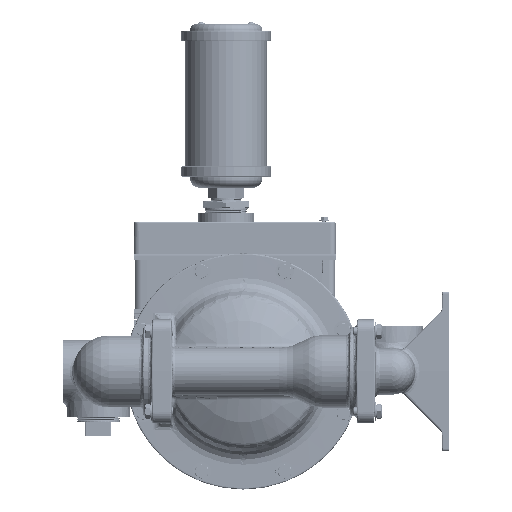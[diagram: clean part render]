
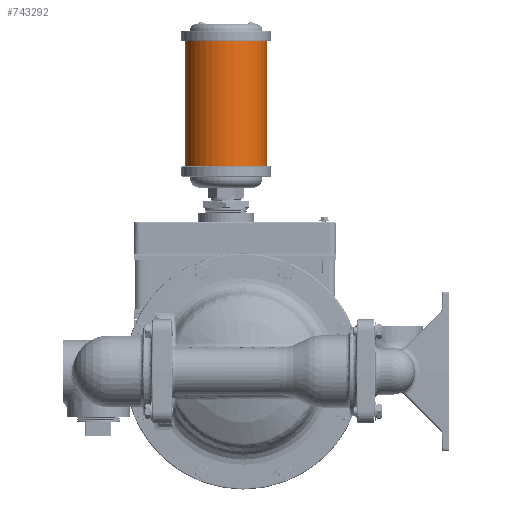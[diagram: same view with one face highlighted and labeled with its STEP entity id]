
A CAD part, left-side view. The second image highlights one B-rep face of the part: STEP entity #743292.
In plain terms, the highlighted cylindrical face has radius 45.339 mm (diameter 90.678 mm), a partial arc.
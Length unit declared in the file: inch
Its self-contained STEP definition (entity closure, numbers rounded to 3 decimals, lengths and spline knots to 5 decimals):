
#175208=DIRECTION('',(0.,0.,1.));
#175209=VECTOR('',#175208,5.5);
#175210=CARTESIAN_POINT('',(0.,2.535,8.983));
#175211=LINE('',#175210,#175209);
#175212=DIRECTION('',(0.,0.,1.));
#175213=VECTOR('',#175212,5.5);
#175214=CARTESIAN_POINT('',(0.,-1.035,8.983));
#175215=LINE('',#175214,#175213);
#175216=CARTESIAN_POINT('',(0.,0.75,8.983));
#175217=DIRECTION('',(0.,0.,1.));
#175218=DIRECTION('',(0.,1.,0.));
#175219=AXIS2_PLACEMENT_3D('',#175216,#175217,#175218);
#175241=CARTESIAN_POINT('',(0.,0.75,14.483));
#175242=DIRECTION('',(0.,0.,1.));
#175243=DIRECTION('',(0.,1.,0.));
#175244=AXIS2_PLACEMENT_3D('',#175241,#175242,#175243);
#603593=CARTESIAN_POINT('',(0.,2.535,8.983));
#603594=CARTESIAN_POINT('',(0.,2.535,14.483));
#603595=VERTEX_POINT('',#603593);
#603596=VERTEX_POINT('',#603594);
#603597=CARTESIAN_POINT('',(0.,-1.035,8.983));
#603598=CARTESIAN_POINT('',(0.,-1.035,14.483));
#603599=VERTEX_POINT('',#603597);
#603600=VERTEX_POINT('',#603598);
#743278=CARTESIAN_POINT('',(0.,0.75,15.592));
#743279=DIRECTION('',(0.,0.,-1.));
#743280=DIRECTION('',(0.,-1.,0.));
#743281=AXIS2_PLACEMENT_3D('',#743278,#743279,#743280);
#743282=CYLINDRICAL_SURFACE('',#743281,1.785);
#743284=ORIENTED_EDGE('',*,*,#743283,.T.);
#743286=ORIENTED_EDGE('',*,*,#743285,.T.);
#743288=ORIENTED_EDGE('',*,*,#743287,.F.);
#743289=ORIENTED_EDGE('',*,*,#743259,.F.);
#743290=EDGE_LOOP('',(#743284,#743286,#743288,#743289));
#743291=FACE_OUTER_BOUND('',#743290,.F.);
#175220=CIRCLE('',#175219,1.785);
#175245=CIRCLE('',#175244,1.785);
#743259=EDGE_CURVE('',#603595,#603599,#175220,.T.);
#743283=EDGE_CURVE('',#603595,#603596,#175211,.T.);
#743285=EDGE_CURVE('',#603596,#603600,#175245,.T.);
#743287=EDGE_CURVE('',#603599,#603600,#175215,.T.);
#743292=ADVANCED_FACE('',(#743291),#743282,.T.);
